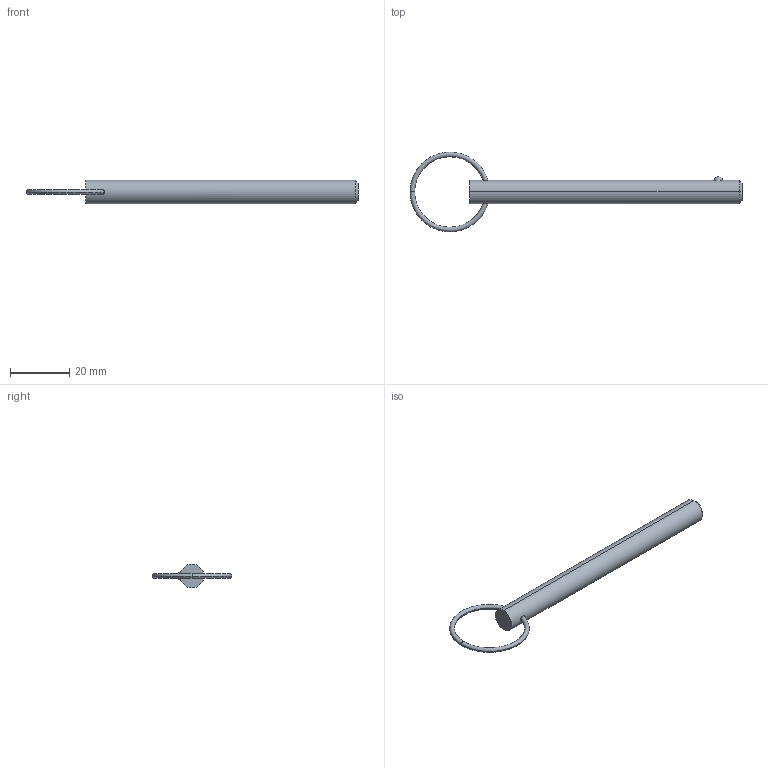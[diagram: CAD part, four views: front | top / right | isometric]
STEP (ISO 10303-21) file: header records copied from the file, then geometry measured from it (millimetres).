
FILE_DESCRIPTION (( 'STEP AP203' ), '1' );
FILE_NAME ('33012.W3130.step', '2024-11-01T14:08:34', ( '' ), ( '' ), 'SwSTEP 2.0', 'SolidWorks 2019', '' );
FILE_SCHEMA (( 'CONFIG_CONTROL_DESIGN' ));
Length unit declared in the file: millimetre
Products named in the file (3): 33012.W3130; Part2_33012.W3130; Part1_33012.W3130
Assembly tree (2 placements, depth 2):
  33012.W3130
    Part1_33012.W3130
    Part2_33012.W3130
Bounding box: 112.33 x 26.99 x 7.94 mm (x, y, z)
Volume: 4686.6 mm3; surface area: 2826.4 mm2
Topology: 2 solids, 2 shells, 16 faces, 31 edges, 18 vertices
Faces by surface type: torus 8, sphere 2, cone 2, cylinder 2, plane 2
Entity records: 827 total; most frequent: CARTESIAN_POINT 184, DIRECTION 88, ORIENTED_EDGE 62, AXIS2_PLACEMENT_3D 42, EDGE_CURVE 31, PERSON_AND_ORGANIZATION 26, CIRCLE 21, EDGE_LOOP 19
